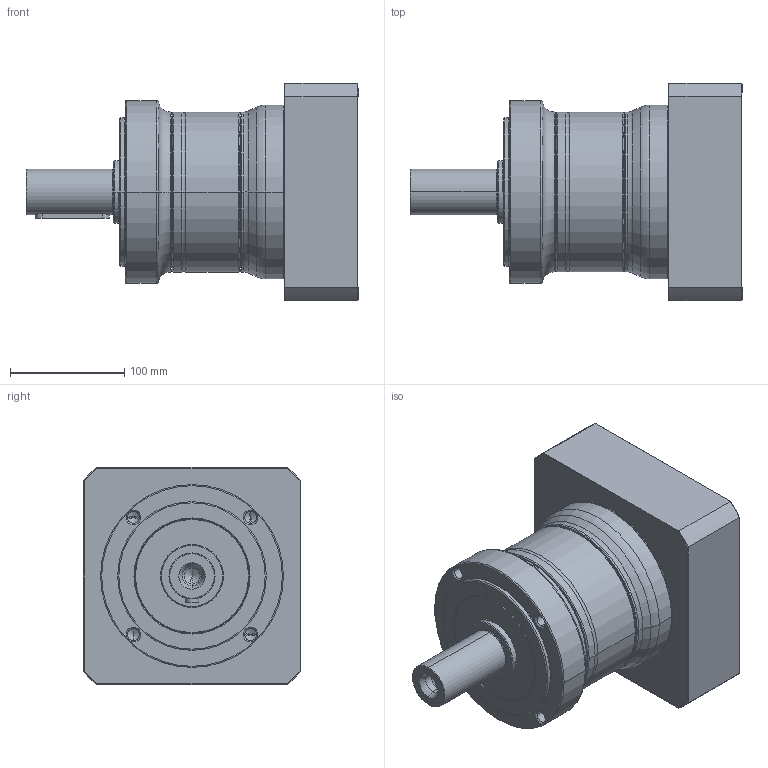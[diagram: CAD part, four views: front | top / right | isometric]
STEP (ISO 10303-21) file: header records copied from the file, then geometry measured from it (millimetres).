
FILE_DESCRIPTION((''),'2;1');
FILE_NAME('PG2-160_1ST_42-P0411A00101_ASM','2016-04-12T',('d01943'),(''),'PRO/ENGINEER BY PARAMETRIC TECHNOLOGY CORPORATION, 2008410','PRO/ENGINEER BY PARAMETRIC TECHNOLOGY CORPORATION, 2008410','');
FILE_SCHEMA(('CONFIG_CONTROL_DESIGN'));
Length unit declared in the file: millimetre
Products named in the file (9): P1325510001; P0250500001; P1324500601; P0350501103; P0941506001; P0503A00012; P0411A00101; P1702700001; PG2-160_1ST_42-P0411A00101_ASM
Assembly tree (8 placements, depth 2):
  PG2-160_1ST_42-P0411A00101_ASM
    P1325510001
    P0250500001
    P1324500601
    P0350501103
    P0941506001
    P0503A00012
    P0411A00101
    P1702700001
Bounding box: 290.5 x 190 x 190 mm (x, y, z)
Volume: 3635379 mm3; surface area: 438078.3 mm2
Topology: 8 solids, 9 shells, 475 faces, 1046 edges, 601 vertices
Faces by surface type: cone 142, cylinder 140, torus 98, plane 79, bspline 16
Entity records: 17720 total; most frequent: CARTESIAN_POINT 7038, DIRECTION 2434, ORIENTED_EDGE 2024, AXIS2_PLACEMENT_3D 1044, EDGE_CURVE 1012, VERTEX_POINT 601, CIRCLE 568, EDGE_LOOP 539
